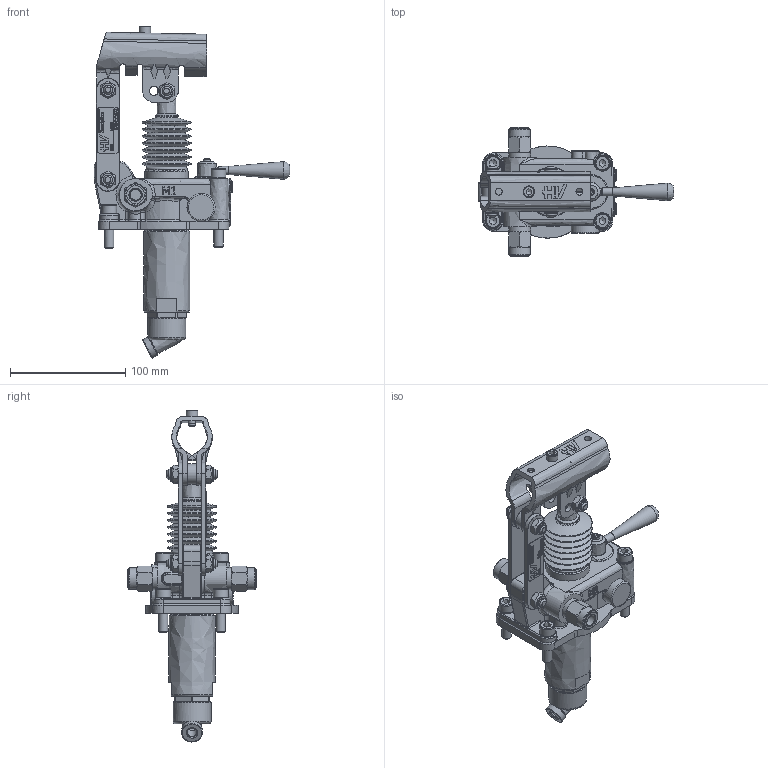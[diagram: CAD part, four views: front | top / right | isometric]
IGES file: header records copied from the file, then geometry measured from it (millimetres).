
Global section: file name: No Iges File Name specified; native system: Autodesk Inventor 2013; preprocessor: AutoDesk Inventor Iges Exporter R2013; author: christian.scardovi; date: 20240307.161149; units: millimetre
Bounding box: 170 x 112 x 288.31 mm (x, y, z)
Volume: 481873.1 mm3; surface area: 136999.1 mm2
Topology: 3 solids, 3 shells, 1699 faces, 4344 edges, 2757 vertices
Faces by surface type: bspline 1699
